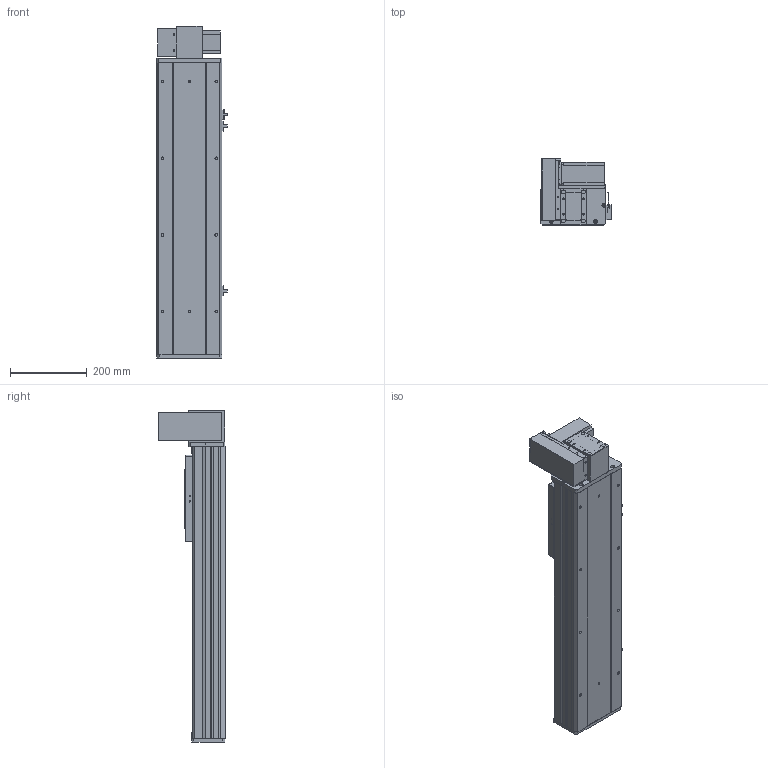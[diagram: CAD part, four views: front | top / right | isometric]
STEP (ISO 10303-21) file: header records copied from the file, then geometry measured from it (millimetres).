
FILE_DESCRIPTION (( 'STEP AP203' ), '1' );
FILE_NAME ('Y170CB-D105-S450-UL-P400W.STEP', '2020-02-20T02:09:40', ( '微软用户' ), ( '微软中国' ), 'SwSTEP 2.0', 'SolidWorks 2017', '' );
FILE_SCHEMA (( 'CONFIG_CONTROL_DESIGN' ));
Length unit declared in the file: millimetre
Products named in the file (18): san松下电机400不带刹车----; Y100-135俋离換覜ん--; 70CB-掛极-; Y170CB-陔俋离換覜結え---; --70CB --喘謫眊楊擘啣-; 70B喘謫眊----; 70CB-耜裔啣-; Y1埴倛裔; 70C--詩湍揤踡え-; 17B-耜蚾蟀諉啣----; 70CB--耜裔; 00B-俋欶BM--163; 70C-雄赽釱-奻-; B-源倛裔啣; Y170CB-D105-S450-UL-P400W; 0C--雄赽釱俋欶-170; 0B-萇儂楊擘啣; 70CB-詩湍--
Assembly tree (21 placements, depth 2):
  Y170CB-D105-S450-UL-P400W
    B-源倛裔啣
    0B-萇儂楊擘啣
    san松下电机400不带刹车----
    70CB-掛极-
    --70CB --喘謫眊楊擘啣-
    70CB-耜裔啣-  x2
    70C--詩湍揤踡え-  x2
    70CB--耜裔
    70C-雄赽釱-奻-
    0C--雄赽釱俋欶-170
    70CB-詩湍--
    Y100-135俋离換覜ん--  x3
    Y170CB-陔俋离換覜結え---
    70B喘謫眊----
    Y1埴倛裔
    17B-耜蚾蟀諉啣----
    00B-俋欶BM--163
Bounding box: 183.5 x 174 x 866 mm (x, y, z)
Volume: 4374358.4 mm3; surface area: 1555162.6 mm2
Topology: 21 solids, 21 shells, 983 faces, 2621 edges, 1738 vertices
Faces by surface type: cylinder 497, plane 462, cone 24
Entity records: 31160 total; most frequent: CARTESIAN_POINT 5676, DIRECTION 5066, ORIENTED_EDGE 4724, EDGE_CURVE 2362, AXIS2_PLACEMENT_3D 1848, VERTEX_POINT 1568, VECTOR 1370, LINE 1370
